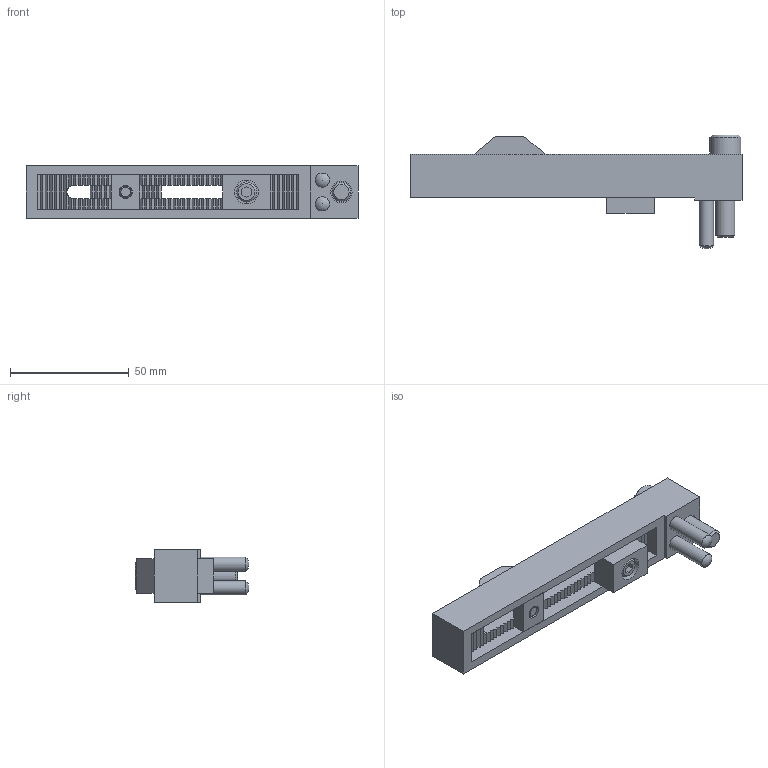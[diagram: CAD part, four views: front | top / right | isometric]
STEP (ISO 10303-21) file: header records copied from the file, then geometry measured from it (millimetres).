
FILE_DESCRIPTION(/* description */ ('STEP AP214'),/* implementation_level */ '2;1');
FILE_NAME(/* name */ 'KU11140',/* time_stamp */ '2024-12-19T07:56:47+01:00',/* author */ ('License CC BY-ND 4.0'),/* organization */ ('CADENAS'),/* preprocessor_version */ 'ST-DEVELOPER v19.3',/* originating_system */ 'PARTsolutions',/* authorisation */ ' ');
FILE_SCHEMA (('AUTOMOTIVE_DESIGN {1 0 10303 214 3 1 1}'));
Length unit declared in the file: millimetre
Products named in the file (10): KU11140; KU111401; KU111402; KU111403; KU111404; KU111405; KU111406; KU111407; KU111408; KU111409
Assembly tree (10 placements, depth 2):
  KU11140
    KU111401
    KU111402
    KU111403
    KU111404
    KU111405
    KU111406
    KU111407
    KU111408  x2
    KU111409
Bounding box: 140 x 48 x 22 mm (x, y, z)
Volume: 48752.2 mm3; surface area: 26943.6 mm2
Topology: 10 solids, 10 shells, 579 faces, 1659 edges, 1100 vertices
Faces by surface type: plane 550, cylinder 19, cone 6, sphere 4
Full cylindrical faces by diameter (mm): 5 x2, 5.5 x4, 6 x4, 8 x1, 8.5 x2, 9 x1, 10 x2, 13 x1
Entity records: 18625 total; most frequent: CARTESIAN_POINT 3299, ORIENTED_EDGE 3244, DIRECTION 2890, EDGE_CURVE 1622, LINE 1528, VECTOR 1528, VERTEX_POINT 1090, AXIS2_PLACEMENT_3D 681
